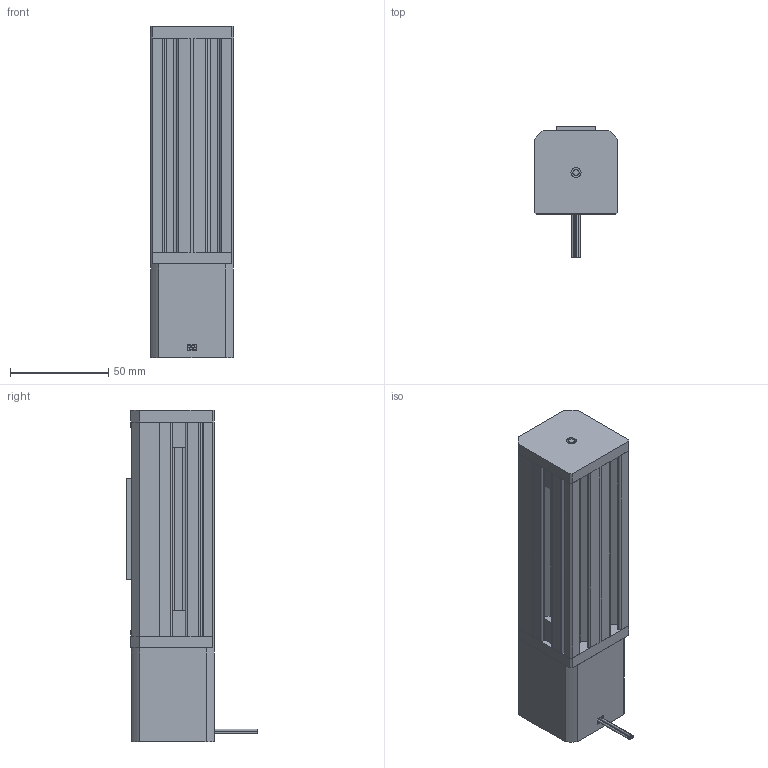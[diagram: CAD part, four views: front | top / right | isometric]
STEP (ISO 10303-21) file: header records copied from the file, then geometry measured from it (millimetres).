
FILE_DESCRIPTION (( 'STEP AP214' ), '1' );
FILE_NAME ('AMETEK-Motor-X43M47-5-4 Slide-X43-A0050-NBN.STEP', '2022-03-03T15:51:49', ( '' ), ( '' ), 'SwSTEP 2.0', 'SolidWorks 2021', '' );
FILE_SCHEMA (( 'AUTOMOTIVE_DESIGN' ));
Length unit declared in the file: millimetre
Products named in the file (4): 17 Double Stack_Double Stack Bottom Wires; AMETEK-Motor-X43M47-5-4  Slide-X43-A0050-NBN; BLOCK_Dual Pin; RAIL_Cut
Assembly tree (3 placements, depth 2):
  AMETEK-Motor-X43M47-5-4  Slide-X43-A0050-NBN
    RAIL_Cut
    17 Double Stack_Double Stack Bottom Wires
    BLOCK_Dual Pin
Bounding box: 42.5 x 66.42 x 168.75 mm (x, y, z)
Volume: 208875.8 mm3; surface area: 68041.9 mm2
Topology: 3 solids, 3 shells, 283 faces, 766 edges, 498 vertices
Faces by surface type: plane 159, cylinder 110, cone 14
Entity records: 10288 total; most frequent: DIRECTION 1560, CARTESIAN_POINT 1541, ORIENTED_EDGE 1508, EDGE_CURVE 754, LINE 526, VECTOR 526, AXIS2_PLACEMENT_3D 517, VERTEX_POINT 498
